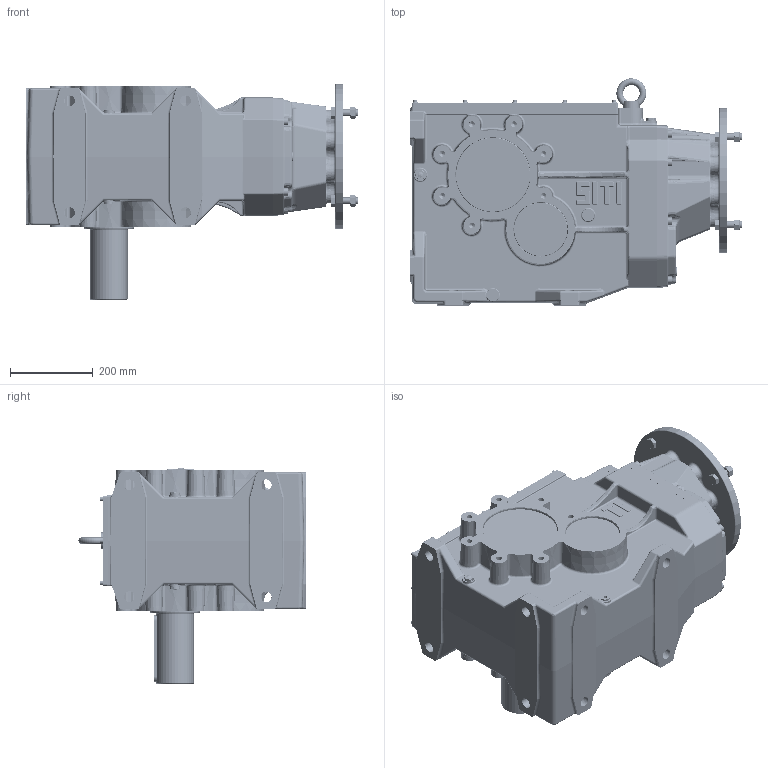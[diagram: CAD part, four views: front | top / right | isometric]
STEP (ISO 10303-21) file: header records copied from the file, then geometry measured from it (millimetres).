
FILE_DESCRIPTION((''),'2;1');
FILE_NAME('O:\Figurini\Figurini BH\3D\160\MBH 160 MS-A PAM 160 B5.stp','2013-05-17T14:42:59',('d.iannaccio'),(''),'Autodesk Inventor 2012','Autodesk Inventor 2012','');
FILE_SCHEMA(('AUTOMOTIVE_DESIGN { 1 0 10303 214 1 1 1 1 }'));
Length unit declared in the file: millimetre
Products named in the file (1): MBH_160 MS-A PAM 160 B5
Bounding box: 801 x 547.96 x 520 mm (x, y, z)
Volume: 27847126.9 mm3; surface area: 3533966.9 mm2
Topology: 67 solids, 69 shells, 4231 faces, 10092 edges, 5955 vertices
Faces by surface type: plane 1154, cylinder 1144, bspline 826, torus 528, cone 472, sphere 107
Full cylindrical faces by diameter (mm): 1.5 x1, 4.917 x12, 6 x24, 6.4 x12, 7 x12, 10 x12, 10.106 x16, 11 x2, 12 x38, 12.5 x14, 13 x16, 13.835 x14, 14.95 x8, 16 x8, 17.25 x2, 17.294 x3, 18 x16, 18.5 x4, 20 x2, 20.5 x16, 21 x2, 22 x1, 22.49 x4, 24 x1, 25 x1, 25.08 x1, 26 x9, 30 x5, 40 x1, 52 x1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
Entity records: 158877 total; most frequent: CARTESIAN_POINT 65193, DIRECTION 18209, ORIENTED_EDGE 18132, EDGE_CURVE 9066, AXIS2_PLACEMENT_3D 7726, VERTEX_POINT 5696, EDGE_LOOP 5078, STYLED_ITEM 4297
